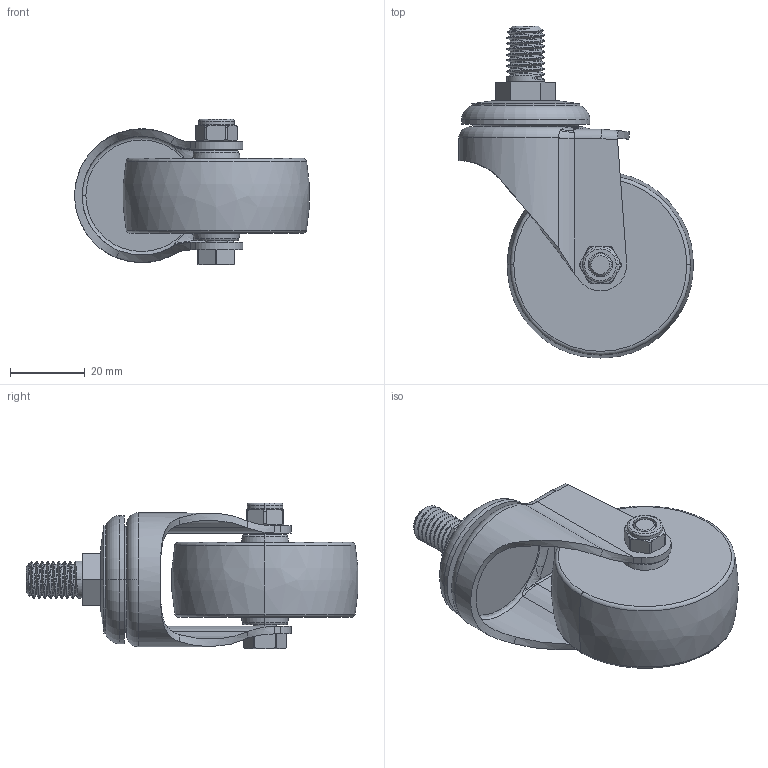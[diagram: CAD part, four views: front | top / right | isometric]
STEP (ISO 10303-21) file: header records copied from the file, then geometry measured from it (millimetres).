
FILE_DESCRIPTION((''),'2;1');
FILE_NAME('26132-262-83_ASM','2021-10-14T',('lenovo'),(''),'PRO/ENGINEER BY PARAMETRIC TECHNOLOGY CORPORATION, 2010280','PRO/ENGINEER BY PARAMETRIC TECHNOLOGY CORPORATION, 2010280','');
FILE_SCHEMA(('CONFIG_CONTROL_DESIGN'));
Length unit declared in the file: millimetre
Products named in the file (5): 26132; 262-83; S260-33; 2610-031; 26132-262-83_ASM
Assembly tree (4 placements, depth 2):
  26132-262-83_ASM
    26132
    262-83
    S260-33
    2610-031
Bounding box: 62.84 x 88.9 x 39 mm (x, y, z)
Volume: 53921.3 mm3; surface area: 18385.6 mm2
Topology: 4 solids, 5 shells, 210 faces, 507 edges, 312 vertices
Faces by surface type: cylinder 68, plane 51, bspline 39, torus 28, cone 24
Entity records: 9928 total; most frequent: CARTESIAN_POINT 5173, ORIENTED_EDGE 1006, DIRECTION 917, EDGE_CURVE 503, AXIS2_PLACEMENT_3D 374, VERTEX_POINT 312, EDGE_LOOP 229, FACE_OUTER_BOUND 210
